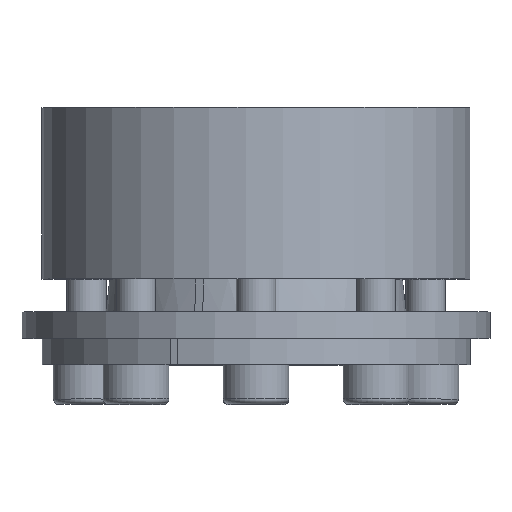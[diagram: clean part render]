
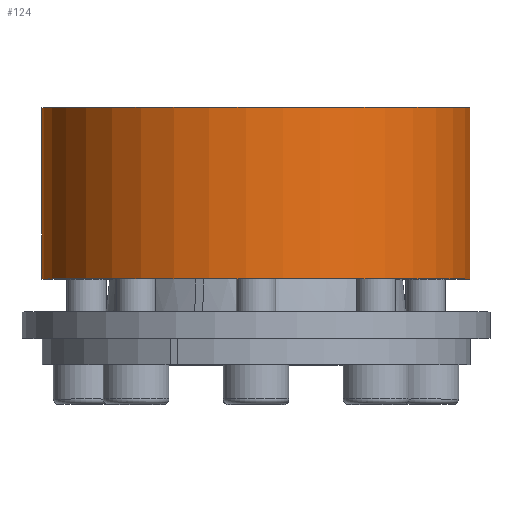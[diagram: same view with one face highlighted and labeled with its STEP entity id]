
A CAD part, top view. The second image highlights one B-rep face of the part: STEP entity #124.
In plain terms, the highlighted cylindrical face has radius 32.5 mm (diameter 65 mm), a partial arc.
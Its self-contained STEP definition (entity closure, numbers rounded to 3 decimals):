
#124 = ADVANCED_FACE( '', ( #291 ), #292, .T. );
#291 = FACE_OUTER_BOUND( '', #485, .T. );
#292 = CYLINDRICAL_SURFACE( '', #486, 32.5 );
#485 = EDGE_LOOP( '', ( #809, #810, #811, #812 ) );
#486 = AXIS2_PLACEMENT_3D( '', #813, #814, #815 );
#809 = ORIENTED_EDGE( '', *, *, #1130, .F. );
#810 = ORIENTED_EDGE( '', *, *, #1141, .T. );
#811 = ORIENTED_EDGE( '', *, *, #1048, .T. );
#812 = ORIENTED_EDGE( '', *, *, #1099, .F. );
#813 = CARTESIAN_POINT( '', ( 0., -60., 0. ) );
#814 = DIRECTION( '', ( 0., 1., 0. ) );
#815 = DIRECTION( '', ( 0., 0., -1. ) );
#1048 = EDGE_CURVE( '', #1266, #1267, #1268, .T. );
#1099 = EDGE_CURVE( '', #1350, #1267, #1351, .F. );
#1130 = EDGE_CURVE( '', #1397, #1350, #1399, .T. );
#1141 = EDGE_CURVE( '', #1397, #1266, #1415, .F. );
#1266 = VERTEX_POINT( '', #1637 );
#1267 = VERTEX_POINT( '', #1638 );
#1268 = CIRCLE( '', #1639, 32.5 );
#1350 = VERTEX_POINT( '', #1729 );
#1351 = LINE( '', #1730, #1731 );
#1397 = VERTEX_POINT( '', #1802 );
#1399 = CIRCLE( '', #1805, 32.5 );
#1415 = LINE( '', #1827, #1828 );
#1637 = CARTESIAN_POINT( '', ( 13.035, 39., -29.771 ) );
#1638 = CARTESIAN_POINT( '', ( 11.834, 39., -30.269 ) );
#1639 = AXIS2_PLACEMENT_3D( '', #1951, #1952, #1953 );
#1729 = CARTESIAN_POINT( '', ( 11.834, 13., -30.269 ) );
#1730 = CARTESIAN_POINT( '', ( 11.834, -60., -30.269 ) );
#1731 = VECTOR( '', #2061, 1000. );
#1802 = CARTESIAN_POINT( '', ( 13.035, 13., -29.771 ) );
#1805 = AXIS2_PLACEMENT_3D( '', #2097, #2098, #2099 );
#1827 = CARTESIAN_POINT( '', ( 13.035, -60., -29.771 ) );
#1828 = VECTOR( '', #2109, 1000. );
#1951 = CARTESIAN_POINT( '', ( 0., 39., 0. ) );
#1952 = DIRECTION( '', ( 0., -1., 0. ) );
#1953 = DIRECTION( '', ( 0., 0., -1. ) );
#2061 = DIRECTION( '', ( 0., -1., 0. ) );
#2097 = CARTESIAN_POINT( '', ( 0., 13., 0. ) );
#2098 = DIRECTION( '', ( 0., -1., 0. ) );
#2099 = DIRECTION( '', ( 0., 0., -1. ) );
#2109 = DIRECTION( '', ( 0., -1., 0. ) );
